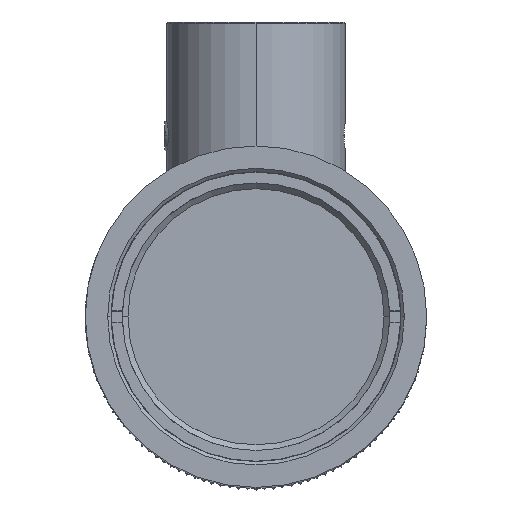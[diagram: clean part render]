
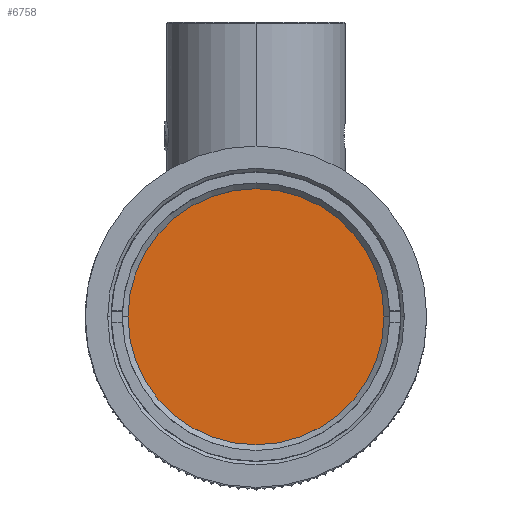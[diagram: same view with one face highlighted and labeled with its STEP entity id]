
A CAD part, top view. The second image highlights one B-rep face of the part: STEP entity #6758.
In plain terms, the highlighted planar face has unit normal (0, 0, 1).
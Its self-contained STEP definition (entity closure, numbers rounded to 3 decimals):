
#431 = EDGE_LOOP ( 'NONE', ( #6981, #6982 ) ) ;
#6758 = ADVANCED_FACE ( 'NONE', ( #15396 ), #20055, .F. ) ;
#6981 = ORIENTED_EDGE ( 'NONE', *, *, #8113, .T. ) ;
#6982 = ORIENTED_EDGE ( 'NONE', *, *, #8112, .T. ) ;
#8112 = EDGE_CURVE ( 'NONE', #8157, #8137, #21338, .T. ) ;
#8113 = EDGE_CURVE ( 'NONE', #8137, #8157, #21343, .T. ) ;
#8137 = VERTEX_POINT ( 'NONE', #20908 ) ;
#8157 = VERTEX_POINT ( 'NONE', #20928 ) ;
#15396 = FACE_OUTER_BOUND ( 'NONE', #431, .T. ) ;
#20055 = PLANE ( 'NONE',  #21052 ) ;
#20056 = CARTESIAN_POINT ( 'NONE',  ( 0., 0., 75.506 ) ) ;
#20057 = DIRECTION ( 'NONE',  ( 0., 0., -1. ) ) ;
#20058 = DIRECTION ( 'NONE',  ( -1., 0., 0. ) ) ;
#20874 = CARTESIAN_POINT ( 'NONE',  ( 0., 0., 75.506 ) ) ;
#20875 = DIRECTION ( 'NONE',  ( 0., 0., 1. ) ) ;
#20876 = DIRECTION ( 'NONE',  ( -1., 0., 0. ) ) ;
#20877 = CARTESIAN_POINT ( 'NONE',  ( 0., 0., 75.506 ) ) ;
#20878 = DIRECTION ( 'NONE',  ( 0., 0., 1. ) ) ;
#20879 = DIRECTION ( 'NONE',  ( -1., 0., 0. ) ) ;
#20908 = CARTESIAN_POINT ( 'NONE',  ( 11.25, 0., 75.506 ) ) ;
#20928 = CARTESIAN_POINT ( 'NONE',  ( -11.25, 0., 75.506 ) ) ;
#21052 = AXIS2_PLACEMENT_3D ( 'NONE', #20056, #20057, #20058 ) ;
#21338 = CIRCLE ( 'NONE', #21342, 11.25 ) ;
#21342 = AXIS2_PLACEMENT_3D ( 'NONE', #20874, #20875, #20876 ) ;
#21343 = CIRCLE ( 'NONE', #21344, 11.25 ) ;
#21344 = AXIS2_PLACEMENT_3D ( 'NONE', #20877, #20878, #20879 ) ;
